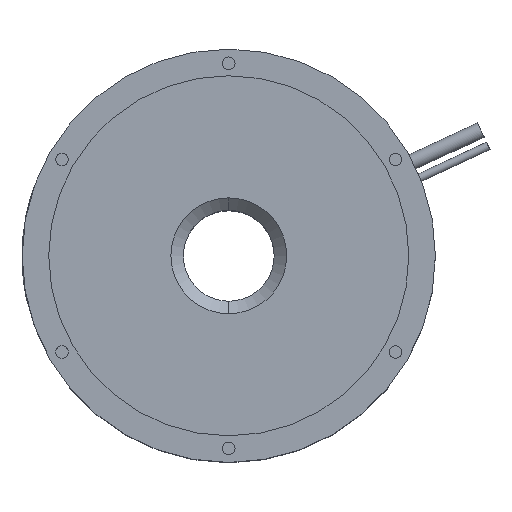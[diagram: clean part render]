
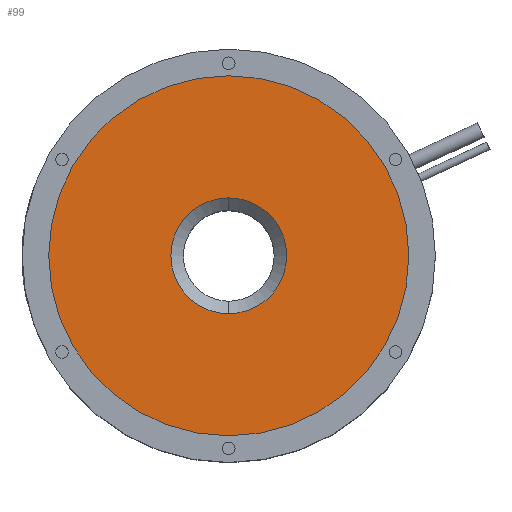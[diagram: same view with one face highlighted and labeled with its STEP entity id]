
A CAD part, top view. The second image highlights one B-rep face of the part: STEP entity #99.
In plain terms, the highlighted planar face has unit normal (0, 0, 1).
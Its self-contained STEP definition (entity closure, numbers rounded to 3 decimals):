
#92 = ORIENTED_EDGE ( 'NONE', *, *, #104, .F. ) ;
#95 = EDGE_CURVE ( 'NONE', #1201, #1281, #1812, .T. ) ;
#99 = ADVANCED_FACE ( 'NONE', ( #1810, #1851 ), #1856, .T. ) ;
#102 = EDGE_LOOP ( 'NONE', ( #110, #131 ) ) ;
#104 = EDGE_CURVE ( 'NONE', #363, #424, #1849, .T. ) ;
#110 = ORIENTED_EDGE ( 'NONE', *, *, #1265, .T. ) ;
#126 = ORIENTED_EDGE ( 'NONE', *, *, #432, .F. ) ;
#127 = EDGE_LOOP ( 'NONE', ( #126, #92 ) ) ;
#131 = ORIENTED_EDGE ( 'NONE', *, *, #95, .T. ) ;
#363 = VERTEX_POINT ( 'NONE', #2575 ) ;
#424 = VERTEX_POINT ( 'NONE', #2694 ) ;
#432 = EDGE_CURVE ( 'NONE', #424, #363, #2688, .T. ) ;
#1201 = VERTEX_POINT ( 'NONE', #4276 ) ;
#1265 = EDGE_CURVE ( 'NONE', #1281, #1201, #4413, .T. ) ;
#1281 = VERTEX_POINT ( 'NONE', #4439 ) ;
#1795 = AXIS2_PLACEMENT_3D ( 'NONE', #1855, #1854, #1853 ) ;
#1810 = FACE_BOUND ( 'NONE', #102, .T. ) ;
#1812 = CIRCLE ( 'NONE', #1795, 37. ) ;
#1826 = DIRECTION ( 'NONE',  ( 0., -1., 0. ) ) ;
#1827 = DIRECTION ( 'NONE',  ( 0., 0., 1. ) ) ;
#1829 = CARTESIAN_POINT ( 'NONE',  ( 0., -29., 163. ) ) ;
#1849 = CIRCLE ( 'NONE', #1880, 115. ) ;
#1851 = FACE_OUTER_BOUND ( 'NONE', #127, .T. ) ;
#1852 = AXIS2_PLACEMENT_3D ( 'NONE', #1829, #1827, #1826 ) ;
#1853 = DIRECTION ( 'NONE',  ( 0., -1., 0. ) ) ;
#1854 = DIRECTION ( 'NONE',  ( 0., 0., -1. ) ) ;
#1855 = CARTESIAN_POINT ( 'NONE',  ( 0., 0., 163. ) ) ;
#1856 = PLANE ( 'NONE',  #1852 ) ;
#1876 = DIRECTION ( 'NONE',  ( 0., 1., 0. ) ) ;
#1877 = DIRECTION ( 'NONE',  ( 0., 0., -1. ) ) ;
#1878 = CARTESIAN_POINT ( 'NONE',  ( 0., 0., 163. ) ) ;
#1880 = AXIS2_PLACEMENT_3D ( 'NONE', #1878, #1877, #1876 ) ;
#2575 = CARTESIAN_POINT ( 'NONE',  ( 0., -115., 163. ) ) ;
#2677 = CARTESIAN_POINT ( 'NONE',  ( 0., 0., 163. ) ) ;
#2679 = AXIS2_PLACEMENT_3D ( 'NONE', #2677, #2741, #2740 ) ;
#2688 = CIRCLE ( 'NONE', #2679, 115. ) ;
#2694 = CARTESIAN_POINT ( 'NONE',  ( 0., 115., 163. ) ) ;
#2740 = DIRECTION ( 'NONE',  ( 0., 1., 0. ) ) ;
#2741 = DIRECTION ( 'NONE',  ( 0., 0., -1. ) ) ;
#4276 = CARTESIAN_POINT ( 'NONE',  ( 0., 37., 163. ) ) ;
#4403 = DIRECTION ( 'NONE',  ( 0., -1., 0. ) ) ;
#4404 = DIRECTION ( 'NONE',  ( 0., 0., -1. ) ) ;
#4405 = AXIS2_PLACEMENT_3D ( 'NONE', #4414, #4404, #4403 ) ;
#4413 = CIRCLE ( 'NONE', #4405, 37. ) ;
#4414 = CARTESIAN_POINT ( 'NONE',  ( 0., 0., 163. ) ) ;
#4439 = CARTESIAN_POINT ( 'NONE',  ( 0., -37., 163. ) ) ;
